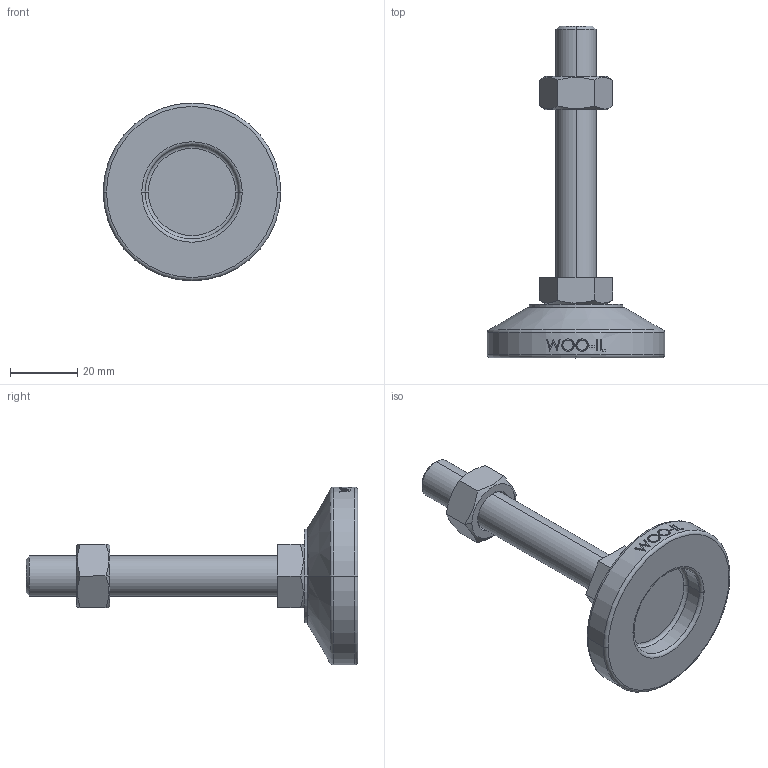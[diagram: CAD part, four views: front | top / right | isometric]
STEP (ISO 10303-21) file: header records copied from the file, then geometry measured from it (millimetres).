
FILE_DESCRIPTION (( 'STEP AP214' ), '1' );
FILE_NAME ('MF53-M12-75.step', '2021-02-03T08:16:56', ( '' ), ( '' ), 'SwSTEP 2.0', 'SolidWorks 2019', '' );
FILE_SCHEMA (( 'AUTOMOTIVE_DESIGN' ));
Length unit declared in the file: millimetre
Products named in the file (2): MF53-M12-75
Bounding box: 53 x 99 x 53 mm (x, y, z)
Volume: 36608.2 mm3; surface area: 11777.6 mm2
Topology: 3 solids, 3 shells, 106 faces, 243 edges, 154 vertices
Faces by surface type: plane 48, cylinder 18, bspline 16, cone 14, torus 10
Entity records: 4394 total; most frequent: CARTESIAN_POINT 2051, ORIENTED_EDGE 486, DIRECTION 439, EDGE_CURVE 243, AXIS2_PLACEMENT_3D 170, VERTEX_POINT 154, EDGE_LOOP 119, FACE_OUTER_BOUND 106
